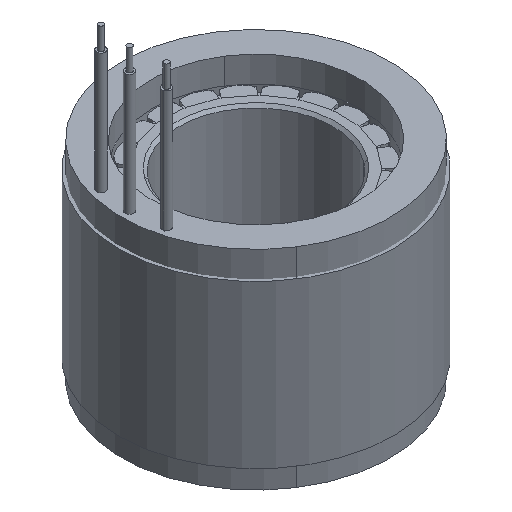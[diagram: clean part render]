
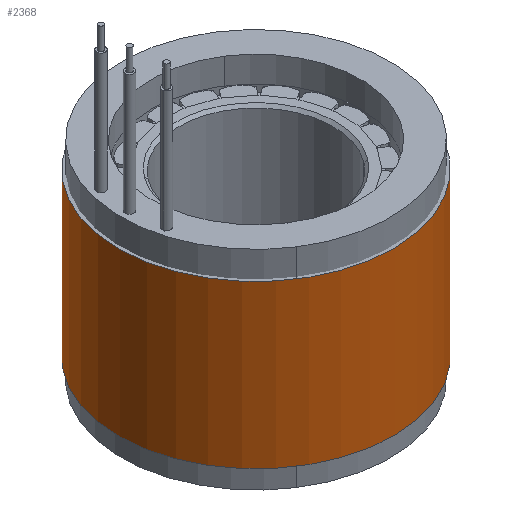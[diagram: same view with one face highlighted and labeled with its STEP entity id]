
A CAD part, isometric view. The second image highlights one B-rep face of the part: STEP entity #2368.
In plain terms, the highlighted cylindrical face has radius 25 mm (diameter 50 mm), a partial arc.
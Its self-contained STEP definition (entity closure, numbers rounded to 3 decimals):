
#299 = DIRECTION ( 'NONE',  ( 0.654, -0.757, 0. ) ) ;
#328 = VECTOR ( 'NONE', #1044, 1000. ) ;
#487 = LINE ( 'NONE', #7395, #8456 ) ;
#546 = CARTESIAN_POINT ( 'NONE',  ( 0., 0., 29.5 ) ) ;
#779 = VERTEX_POINT ( 'NONE', #6081 ) ;
#1044 = DIRECTION ( 'NONE',  ( 0., 0., -1. ) ) ;
#1059 = EDGE_CURVE ( 'NONE', #1804, #4063, #1796, .T. ) ;
#1095 = ORIENTED_EDGE ( 'NONE', *, *, #7316, .T. ) ;
#1796 = CIRCLE ( 'NONE', #3514, 25. ) ;
#1798 = CARTESIAN_POINT ( 'NONE',  ( 0., 0., 29.5 ) ) ;
#1804 = VERTEX_POINT ( 'NONE', #7138 ) ;
#2254 = CIRCLE ( 'NONE', #8881, 25. ) ;
#2267 = AXIS2_PLACEMENT_3D ( 'NONE', #546, #3884, #7979 ) ;
#2368 = ADVANCED_FACE ( 'NONE', ( #8070 ), #3154, .T. ) ;
#2892 = LINE ( 'NONE', #5648, #328 ) ;
#3154 = CYLINDRICAL_SURFACE ( 'NONE', #2267, 25. ) ;
#3514 = AXIS2_PLACEMENT_3D ( 'NONE', #1798, #8643, #299 ) ;
#3884 = DIRECTION ( 'NONE',  ( 0., 0., -1. ) ) ;
#4063 = VERTEX_POINT ( 'NONE', #6632 ) ;
#4151 = ORIENTED_EDGE ( 'NONE', *, *, #8162, .T. ) ;
#5112 = EDGE_CURVE ( 'NONE', #4063, #779, #2892, .T. ) ;
#5303 = DIRECTION ( 'NONE',  ( 0.654, -0.757, 0. ) ) ;
#5648 = CARTESIAN_POINT ( 'NONE',  ( 16.339, -18.922, 29.5 ) ) ;
#5971 = DIRECTION ( 'NONE',  ( 0., 0., 1. ) ) ;
#6081 = CARTESIAN_POINT ( 'NONE',  ( 16.339, -18.922, 0. ) ) ;
#6632 = CARTESIAN_POINT ( 'NONE',  ( 16.339, -18.922, 29.5 ) ) ;
#6943 = ORIENTED_EDGE ( 'NONE', *, *, #5112, .F. ) ;
#7138 = CARTESIAN_POINT ( 'NONE',  ( -16.339, 18.922, 29.5 ) ) ;
#7314 = ORIENTED_EDGE ( 'NONE', *, *, #1059, .F. ) ;
#7316 = EDGE_CURVE ( 'NONE', #7390, #779, #2254, .T. ) ;
#7341 = CARTESIAN_POINT ( 'NONE',  ( -16.339, 18.922, 0. ) ) ;
#7390 = VERTEX_POINT ( 'NONE', #7341 ) ;
#7395 = CARTESIAN_POINT ( 'NONE',  ( -16.339, 18.922, 29.5 ) ) ;
#7979 = DIRECTION ( 'NONE',  ( -0.654, 0.757, 0. ) ) ;
#8070 = FACE_OUTER_BOUND ( 'NONE', #8839, .T. ) ;
#8162 = EDGE_CURVE ( 'NONE', #1804, #7390, #487, .T. ) ;
#8456 = VECTOR ( 'NONE', #8925, 1000. ) ;
#8543 = CARTESIAN_POINT ( 'NONE',  ( 0., 0., 0. ) ) ;
#8643 = DIRECTION ( 'NONE',  ( 0., 0., 1. ) ) ;
#8839 = EDGE_LOOP ( 'NONE', ( #6943, #7314, #4151, #1095 ) ) ;
#8881 = AXIS2_PLACEMENT_3D ( 'NONE', #8543, #5971, #5303 ) ;
#8925 = DIRECTION ( 'NONE',  ( 0., 0., -1. ) ) ;
